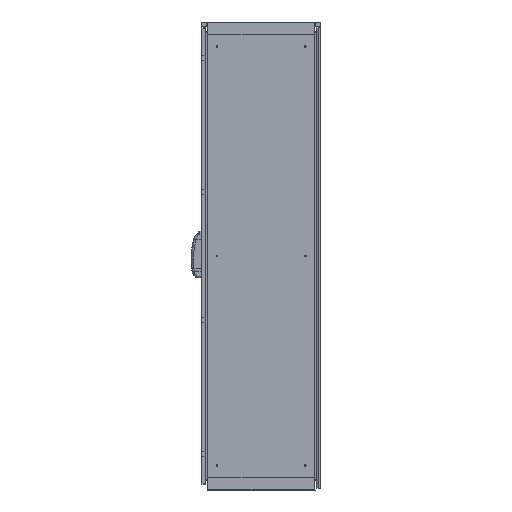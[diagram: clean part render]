
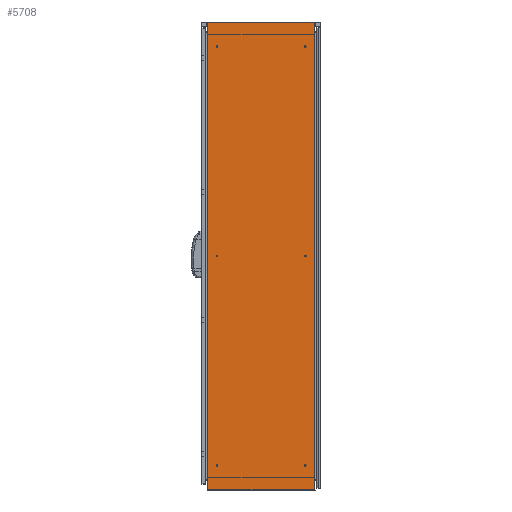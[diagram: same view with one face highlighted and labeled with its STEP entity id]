
A CAD part, left-side view. The second image highlights one B-rep face of the part: STEP entity #5708.
In plain terms, the highlighted planar face has unit normal (-1, 0, 0).
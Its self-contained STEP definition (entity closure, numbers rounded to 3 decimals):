
#5708 = ADVANCED_FACE ( 'NONE', ( #79504 ), #84750, .F. ) ;
#6666 = DIRECTION ( 'NONE',  ( 0., 0., -1. ) ) ;
#8082 = ORIENTED_EDGE ( 'NONE', *, *, #52666, .T. ) ;
#8504 = CARTESIAN_POINT ( 'NONE',  ( -400., -229.43, 2009. ) ) ;
#15279 = VERTEX_POINT ( 'NONE', #53943 ) ;
#19744 = CARTESIAN_POINT ( 'NONE',  ( -400., 233.5, 2009. ) ) ;
#25774 = VECTOR ( 'NONE', #35540, 1000. ) ;
#26694 = VECTOR ( 'NONE', #35205, 1000. ) ;
#26713 = DIRECTION ( 'NONE',  ( 1., 0., 0. ) ) ;
#27423 = CARTESIAN_POINT ( 'NONE',  ( -400., 229.43, 2009. ) ) ;
#31158 = VECTOR ( 'NONE', #72348, 1000. ) ;
#33126 = EDGE_LOOP ( 'NONE', ( #53924, #68323, #43708, #8082 ) ) ;
#35205 = DIRECTION ( 'NONE',  ( 0., 0., -1. ) ) ;
#35540 = DIRECTION ( 'NONE',  ( 0., 0., 1. ) ) ;
#41676 = LINE ( 'NONE', #8504, #25774 ) ;
#43008 = EDGE_CURVE ( 'NONE', #15279, #52145, #58824, .T. ) ;
#43708 = ORIENTED_EDGE ( 'NONE', *, *, #58613, .F. ) ;
#45032 = AXIS2_PLACEMENT_3D ( 'NONE', #19744, #26713, #6666 ) ;
#45464 = EDGE_CURVE ( 'NONE', #52145, #84973, #41676, .T. ) ;
#45761 = CARTESIAN_POINT ( 'NONE',  ( -400., 233.5, 0. ) ) ;
#48732 = CARTESIAN_POINT ( 'NONE',  ( -400., 233.5, 2009. ) ) ;
#48742 = CARTESIAN_POINT ( 'NONE',  ( -400., 229.43, 2009. ) ) ;
#51465 = VECTOR ( 'NONE', #76182, 1000. ) ;
#52087 = CARTESIAN_POINT ( 'NONE',  ( -400., -229.43, 0. ) ) ;
#52145 = VERTEX_POINT ( 'NONE', #52087 ) ;
#52390 = CARTESIAN_POINT ( 'NONE',  ( -400., -229.43, 2009. ) ) ;
#52666 = EDGE_CURVE ( 'NONE', #63093, #15279, #69230, .T. ) ;
#53924 = ORIENTED_EDGE ( 'NONE', *, *, #43008, .T. ) ;
#53943 = CARTESIAN_POINT ( 'NONE',  ( -400., 229.43, 0. ) ) ;
#54830 = LINE ( 'NONE', #48732, #51465 ) ;
#58613 = EDGE_CURVE ( 'NONE', #63093, #84973, #54830, .T. ) ;
#58824 = LINE ( 'NONE', #45761, #31158 ) ;
#63093 = VERTEX_POINT ( 'NONE', #27423 ) ;
#68323 = ORIENTED_EDGE ( 'NONE', *, *, #45464, .T. ) ;
#69230 = LINE ( 'NONE', #48742, #26694 ) ;
#72348 = DIRECTION ( 'NONE',  ( 0., -1., 0. ) ) ;
#76182 = DIRECTION ( 'NONE',  ( 0., -1., 0. ) ) ;
#79504 = FACE_OUTER_BOUND ( 'NONE', #33126, .T. ) ;
#84750 = PLANE ( 'NONE',  #45032 ) ;
#84973 = VERTEX_POINT ( 'NONE', #52390 ) ;
